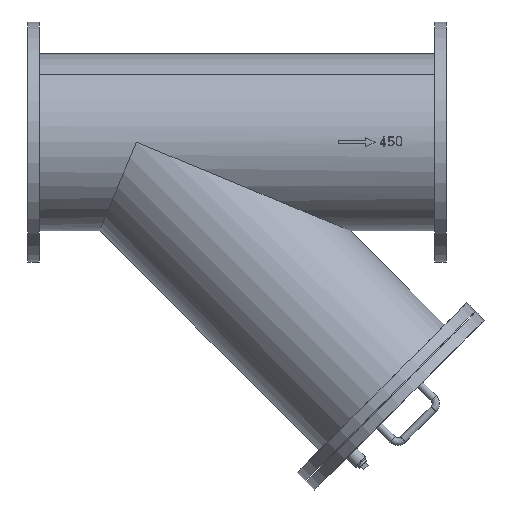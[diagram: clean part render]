
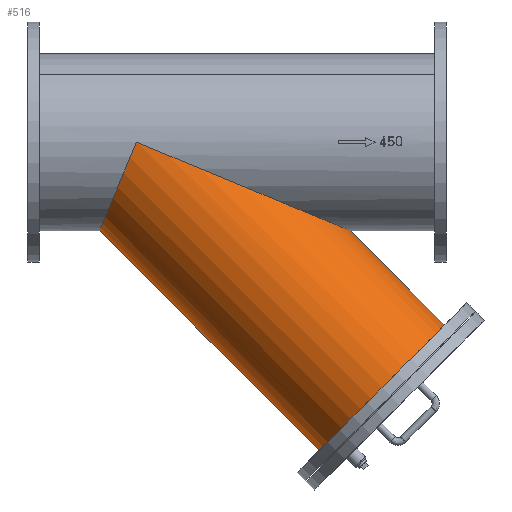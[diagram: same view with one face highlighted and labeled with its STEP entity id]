
A CAD part, front view. The second image highlights one B-rep face of the part: STEP entity #516.
In plain terms, the highlighted cylindrical face has radius 228.6 mm (diameter 457.2 mm), a partial arc.
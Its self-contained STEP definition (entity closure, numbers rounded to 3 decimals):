
#516=ADVANCED_FACE('',(#2184),#2183,.T.);
#2183=CYLINDRICAL_SURFACE('',#4871,228.6);
#2184=FACE_OUTER_BOUND('',#4872,.T.);
#4868=CARTESIAN_POINT('',(140.,0.,140.));
#4869=DIRECTION('',(-0.707,0.,0.707));
#4870=DIRECTION('',(0.707,0.,0.707));
#4871=AXIS2_PLACEMENT_3D('',#4868,#4869,#4870);
#4872=EDGE_LOOP('',(#6693,#6694,#6695,#6696,#6697));
#6693=ORIENTED_EDGE('',*,*,#7531,.F.);
#6694=ORIENTED_EDGE('',*,*,#7589,.T.);
#6695=ORIENTED_EDGE('',*,*,#7541,.T.);
#6696=ORIENTED_EDGE('',*,*,#7544,.T.);
#6697=ORIENTED_EDGE('',*,*,#7590,.F.);
#7531=EDGE_CURVE('',#10439,#10438,#10446,.T.);
#7541=EDGE_CURVE('',#10512,#10513,#10514,.T.);
#7544=EDGE_CURVE('',#10513,#10527,#10534,.T.);
#7589=EDGE_CURVE('',#10439,#10512,#10804,.T.);
#7590=EDGE_CURVE('',#10438,#10527,#10810,.T.);
#10438=VERTEX_POINT('',#14184);
#10439=VERTEX_POINT('',#14185);
#10446=CIRCLE('',#14193,228.6);
#10512=VERTEX_POINT('',#14234);
#10513=VERTEX_POINT('',#14235);
#10514=(BOUNDED_CURVE() B_SPLINE_CURVE(2,(#14236,#14237,#14238),.UNSPECIFIED.,.F.,.F.) B_SPLINE_CURVE_WITH_KNOTS((3,3),(3.142,4.712),.UNSPECIFIED.) CURVE() GEOMETRIC_REPRESENTATION_ITEM() RATIONAL_B_SPLINE_CURVE((1.,0.707,1.)) REPRESENTATION_ITEM('') );
#10527=VERTEX_POINT('',#14243);
#10534=(BOUNDED_CURVE() B_SPLINE_CURVE(2,(#14247,#14248,#14249),.UNSPECIFIED.,.F.,.F.) B_SPLINE_CURVE_WITH_KNOTS((3,3),(-7.854,-6.283),.UNSPECIFIED.) CURVE() GEOMETRIC_REPRESENTATION_ITEM() RATIONAL_B_SPLINE_CURVE((1.,0.707,1.)) REPRESENTATION_ITEM('') );
#10804=(BOUNDED_CURVE() B_SPLINE_CURVE(1,(#14338,#14339),.UNSPECIFIED.,.F.,.F.) B_SPLINE_CURVE_WITH_KNOTS((2,2),(0.011,0.387),.UNSPECIFIED.) CURVE() GEOMETRIC_REPRESENTATION_ITEM() RATIONAL_B_SPLINE_CURVE((1.,1.)) REPRESENTATION_ITEM('') );
#10810=(BOUNDED_CURVE() B_SPLINE_CURVE(1,(#14340,#14341),.UNSPECIFIED.,.F.,.F.) B_SPLINE_CURVE_WITH_KNOTS((2,2),(0.011,0.886),.UNSPECIFIED.) CURVE() GEOMETRIC_REPRESENTATION_ITEM() RATIONAL_B_SPLINE_CURVE((0.75,0.75)) REPRESENTATION_ITEM('') );
#14184=CARTESIAN_POINT('',(752.63,0.,-795.919));
#14185=CARTESIAN_POINT('',(1075.919,0.,-472.63));
#14190=CARTESIAN_POINT('',(914.275,0.,-634.275));
#14191=DIRECTION('',(0.707,0.,-0.707));
#14192=DIRECTION('',(-0.707,0.,-0.707));
#14193=AXIS2_PLACEMENT_3D('',#14190,#14191,#14192);
#14234=CARTESIAN_POINT('',(831.889,0.,-228.6));
#14235=CARTESIAN_POINT('',(280.,-228.6,0.));
#14236=CARTESIAN_POINT('',(831.889,0.,-228.6));
#14237=CARTESIAN_POINT('',(831.889,-228.6,-228.6));
#14238=CARTESIAN_POINT('',(280.,-228.6,0.));
#14243=CARTESIAN_POINT('',(185.311,0.,-228.6));
#14247=CARTESIAN_POINT('',(280.,-228.6,0.));
#14248=CARTESIAN_POINT('',(185.311,-228.6,-228.6));
#14249=CARTESIAN_POINT('',(185.311,0.,-228.6));
#14338=CARTESIAN_POINT('',(1075.919,0.,-472.63));
#14339=CARTESIAN_POINT('',(831.889,0.,-228.6));
#14340=CARTESIAN_POINT('',(752.63,0.,-795.919));
#14341=CARTESIAN_POINT('',(185.311,0.,-228.6));
